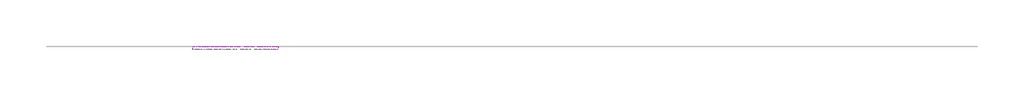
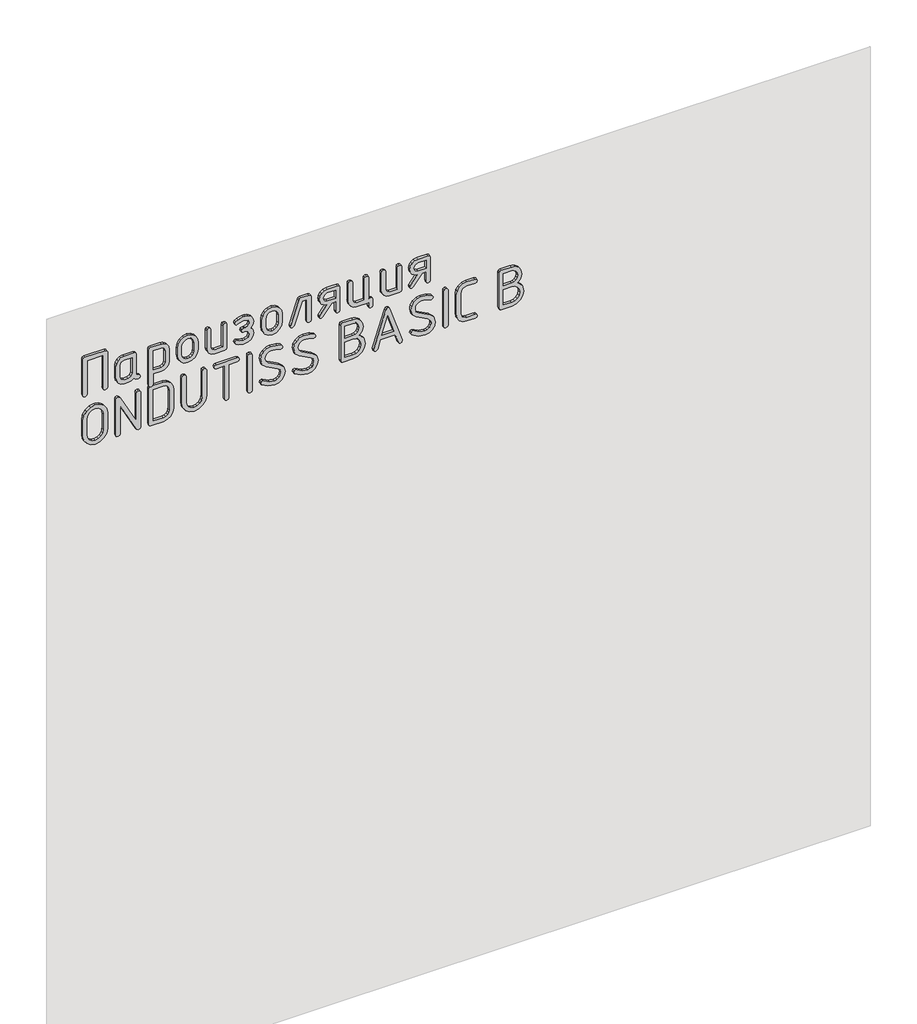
# One storey, part 27 of 42: 1 proxy.
"""IFC4 building model written with IfcOpenShell, lengths in millimetres."""

from ifc_helpers import new_model, si_unit, frame, origin, place, context, project, spatial, polyline, outline, extrude, element, save

model = new_model("IFC4")

# Units and contexts
model_context = context("Model", 3, world=origin())
ifc_project = project(units=[si_unit("LENGTHUNIT", "METRE", prefix="MILLI")], contexts=[model_context])

# Site, building, storey
site = spatial("IfcSite", under=ifc_project)
building = spatial("IfcBuilding", under=site)
storey = spatial("IfcBuildingStorey", under=building, Name="Этаж 01", Elevation=0.0)

# Proxy
placement = place(None, origin())
element("IfcBuildingElementProxy", 1, Name="150 мм GOST Common", ObjectType="150 мм GOST Common", at=placement, inside=storey, context=model_context, shape_type="SweptSolid", body=[
    extrude(outline(polyline([(2813.534126, -17003.1472358), (2811.6464128, -17008.750448), (2805.9832732, -17010.6181854), (2670.2277293, -17010.6181854), (2664.5645897, -17008.7005085), (2662.6768765, -17002.9474778), (2664.5546018, -16997.1944471), (2670.1877777, -16995.2767702), (2798.1927108, -16995.2767702), (2798.1927108, -16936.468012), (2670.1877777, -16936.468012), (2664.5546018, -16934.5503351), (2662.6768765, -16928.7973044), (2664.5645897, -16923.0442737), (2670.2277293, -16921.1265968), (2805.9832732, -16921.1265968), (2811.6464128, -16922.9943342), (2813.534126, -16928.5975464), (2813.534126, -17003.1472358)])), frame((0.0, -21838.3929597, 0.0), z_axis=(0.0, 1.0, 0.0), x_axis=(0.0, 0.0, 1.0)), (0.0, 0.0, 1.0), 10.0),
    extrude(outline(polyline([(2670.1478261, -16801.3117421), (2675.781002, -16803.1844735), (2677.6587273, -16808.8026675), (2679.5264647, -16814.4208616), (2685.1296769, -16816.2935929), (2760.0389308, -16816.2935929), (2765.642143, -16818.1513424), (2767.5098804, -16823.7245909), (2767.5098804, -16860.7996776), (2765.342506, -16872.2957511), (2758.8403827, -16881.8541719), (2749.1820829, -16888.2963678), (2737.5461788, -16890.4437664), (2692.6405781, -16890.4437664), (2681.004674, -16888.2963678), (2671.3463742, -16881.8541719), (2664.8442509, -16872.2957511), (2662.6768765, -16860.7996776), (2662.6768765, -16845.9376817), (2664.6644687, -16834.960979), (2670.6272453, -16825.8420258), (2664.6644687, -16818.2612093), (2662.6768765, -16808.7826917), (2664.5446139, -16803.1794795), (2670.1478261, -16801.3117421)]), holes=[polyline([(2752.1684652, -16831.6350081), (2692.8403361, -16831.6350081), (2682.3530405, -16835.8698779), (2678.0182917, -16846.1374397), (2678.0182917, -16860.5999196), (2682.3929921, -16870.8275298), (2692.8403361, -16875.1023512), (2737.3464208, -16875.1023512), (2747.8337163, -16870.8674814), (2752.1684652, -16860.5999196), (2752.1684652, -16831.6350081)])]), frame((0.0, -21838.3929597, 0.0), z_axis=(0.0, 1.0, 0.0), x_axis=(0.0, 0.0, 1.0)), (0.0, 0.0, 1.0), 10.0),
    extrude(outline(polyline([(2759.9590276, -16770.2693473), (2624.2034837, -16770.2693473), (2618.5403441, -16768.3516704), (2616.6526309, -16762.5986397), (2618.5703078, -16756.845609), (2624.3233385, -16754.9279321), (2662.6768765, -16754.9279321), (2662.6768765, -16725.523553), (2664.8592328, -16714.1323525), (2671.4063016, -16704.6488409), (2681.0795832, -16698.2515906), (2692.6405781, -16696.1191739), (2737.5461788, -16696.1191739), (2749.1820829, -16698.2665725), (2758.8403827, -16704.7087683), (2765.342506, -16714.2671891), (2767.5098804, -16725.7632626), (2767.5098804, -16762.8383493), (2765.6221672, -16768.4115978), (2759.9590276, -16770.2693473)]), holes=[polyline([(2752.1684652, -16754.9279321), (2752.1684652, -16725.9630206), (2747.8936437, -16715.6355315), (2737.3464208, -16711.4605891), (2692.8403361, -16711.4605891), (2682.3530405, -16715.6954589), (2678.0182917, -16725.9630206), (2678.0182917, -16754.9279321), (2752.1684652, -16754.9279321)])]), frame((0.0, -21838.3929597, 0.0), z_axis=(0.0, 1.0, 0.0), x_axis=(0.0, 0.0, 1.0)), (0.0, 0.0, 1.0), 10.0),
    extrude(outline(polyline([(2700.1115277, -16665.4363435), (2685.718963, -16662.7246285), (2673.6236155, -16654.5894835), (2665.4135613, -16642.6089968), (2662.6768765, -16628.3612568), (2665.4135613, -16614.1135167), (2673.6236155, -16602.13303), (2685.718963, -16593.997885), (2700.1115277, -16591.28617), (2730.0752292, -16591.28617), (2744.6176124, -16593.9679213), (2756.6829962, -16602.0131752), (2764.8031593, -16613.9636982), (2767.5098804, -16628.3612568), (2764.7731956, -16642.6089968), (2756.5631414, -16654.5894835), (2744.4677939, -16662.7246285), (2730.0752292, -16665.4363435), (2700.1115277, -16665.4363435)]), holes=[polyline([(2700.5509953, -16606.6275852), (2691.8914855, -16608.2206554), (2684.6103061, -16612.9998658), (2679.6662953, -16620.0263538), (2678.0182917, -16628.3612568), (2679.6563074, -16636.771069), (2684.5703545, -16643.7825752), (2691.841546, -16648.51684), (2700.5509953, -16650.0949283), (2730.5546484, -16650.0949283), (2739.1841945, -16648.5018582), (2746.4553861, -16643.7226478), (2751.3993968, -16636.6961597), (2753.0474004, -16628.3612568), (2751.3993968, -16620.0263538), (2746.4553861, -16612.9998658), (2739.1841945, -16608.2206554), (2730.5546484, -16606.6275852), (2700.5509953, -16606.6275852)])]), frame((0.0, -21838.3929597, 0.0), z_axis=(0.0, 1.0, 0.0), x_axis=(0.0, 0.0, 1.0)), (0.0, 0.0, 1.0), 10.0),
    extrude(outline(polyline([(2760.0389308, -16486.4531662), (2765.642143, -16488.3708431), (2767.5098804, -16494.1238738), (2765.642143, -16499.8769045), (2760.0389308, -16501.7945814), (2678.0182917, -16501.7945814), (2678.0182917, -16530.7594929), (2682.4329437, -16540.987103), (2692.9202393, -16545.2619244), (2760.0389308, -16545.2619244), (2765.642143, -16547.1796013), (2767.5098804, -16552.932632), (2765.642143, -16558.6856627), (2760.0389308, -16560.6033396), (2692.6405781, -16560.6033396), (2681.004674, -16558.455941), (2671.3463742, -16552.0137452), (2664.8442509, -16542.4553244), (2662.6768765, -16530.9592509), (2662.6768765, -16493.8841642), (2664.5446139, -16488.3109157), (2670.1478261, -16486.4531662), (2760.0389308, -16486.4531662)])), frame((0.0, -21838.3929597, 0.0), z_axis=(0.0, 1.0, 0.0), x_axis=(0.0, 0.0, 1.0)), (0.0, 0.0, 1.0), 10.0),
    extrude(outline(polyline([(2693.3996585, -16404.6322851), (2682.5128469, -16409.0069856), (2678.0182917, -16419.6540875), (2678.0182917, -16427.1649887), (2681.8336697, -16442.2067669), (2685.6490477, -16451.335708), (2682.9323388, -16455.450723), (2677.6587273, -16457.1686419), (2671.7059386, -16454.1223322), (2666.6320851, -16444.9834032), (2662.6768765, -16427.1649887), (2662.6768765, -16419.6540875), (2664.8991844, -16407.9682439), (2671.566108, -16398.1601256), (2681.4591234, -16391.5081838), (2693.3597069, -16389.2908699), (2707.1829612, -16391.9376636), (2716.3718297, -16399.8780445), (2725.0113637, -16391.9376636), (2738.3052592, -16389.2908699), (2749.6215505, -16391.5081838), (2759.0401407, -16398.1601256), (2765.3924455, -16407.9682439), (2767.5098804, -16419.6540875), (2767.5098804, -16427.1649887), (2763.434817, -16444.8635484), (2758.2710724, -16454.0923685), (2752.5280296, -16457.1686419), (2747.2743939, -16455.450723), (2744.5377092, -16451.4555628), (2748.3530872, -16442.5463555), (2752.1684652, -16427.1649887), (2752.1684652, -16419.6540875), (2748.1133776, -16408.967034), (2738.1055012, -16404.6322851), (2728.0976249, -16408.6673969), (2724.0425373, -16420.3332647), (2724.0425373, -16422.7303609), (2724.0425373, -16425.0076022), (2721.7852718, -16432.4186244), (2716.3318781, -16434.6359383), (2710.8984602, -16432.4785518), (2708.7011221, -16427.1649887), (2708.7011221, -16417.496701), (2704.7459135, -16408.6274453), (2693.3996585, -16404.6322851)])), frame((0.0, -21838.3929597, 0.0), z_axis=(0.0, 1.0, 0.0), x_axis=(0.0, 0.0, 1.0)), (0.0, 0.0, 1.0), 10.0),
    extrude(outline(polyline([(2700.1115277, -16358.6080395), (2685.718963, -16355.8963245), (2673.6236155, -16347.7611796), (2665.4135613, -16335.7806929), (2662.6768765, -16321.5329528), (2665.4135613, -16307.2852127), (2673.6236155, -16295.304726), (2685.718963, -16287.1695811), (2700.1115277, -16284.4578661), (2730.0752292, -16284.4578661), (2744.6176124, -16287.1396174), (2756.6829962, -16295.1848712), (2764.8031593, -16307.1353942), (2767.5098804, -16321.5329528), (2764.7731956, -16335.7806929), (2756.5631414, -16347.7611796), (2744.4677939, -16355.8963245), (2730.0752292, -16358.6080395), (2700.1115277, -16358.6080395)]), holes=[polyline([(2700.5509953, -16299.7992813), (2691.8914855, -16301.3923514), (2684.6103061, -16306.1715618), (2679.6662953, -16313.1980498), (2678.0182917, -16321.5329528), (2679.6563074, -16329.942765), (2684.5703545, -16336.9542712), (2691.841546, -16341.6885361), (2700.5509953, -16343.2666243), (2730.5546484, -16343.2666243), (2739.1841945, -16341.6735542), (2746.4553861, -16336.8943438), (2751.3993968, -16329.8678558), (2753.0474004, -16321.5329528), (2751.3993968, -16313.1980498), (2746.4553861, -16306.1715618), (2739.1841945, -16301.3923514), (2730.5546484, -16299.7992813), (2700.5509953, -16299.7992813)])]), frame((0.0, -21838.3929597, 0.0), z_axis=(0.0, 1.0, 0.0), x_axis=(0.0, 0.0, 1.0)), (0.0, 0.0, 1.0), 10.0),
    extrude(outline(polyline([(2767.5098804, -16217.4590294), (2765.9817316, -16222.0534636), (2761.3972852, -16224.9699306), (2672.5449222, -16254.6140193), (2670.2676809, -16254.9735837), (2664.5745776, -16253.0958584), (2662.6768765, -16247.4626826), (2667.75073, -16240.391249), (2752.1684652, -16212.1055147), (2752.1684652, -16194.9662774), (2670.1478261, -16194.9662774), (2664.5446139, -16193.0486005), (2662.6768765, -16187.2955698), (2664.5446139, -16181.5425391), (2670.1478261, -16179.6248622), (2760.0389308, -16179.6248622), (2765.642143, -16181.5425391), (2767.5098804, -16187.2955698), (2767.5098804, -16217.4590294)])), frame((0.0, -21838.3929597, 0.0), z_axis=(0.0, 1.0, 0.0), x_axis=(0.0, 0.0, 1.0)), (0.0, 0.0, 1.0), 10.0),
    extrude(outline(polyline([(2707.8221869, -16123.4129581), (2674.7023087, -16148.6623706), (2670.1478261, -16150.1405799), (2664.5446139, -16148.2628546), (2662.6768765, -16142.6296787), (2665.7531499, -16136.5969868), (2707.6623805, -16105.354834), (2707.6623805, -16090.1332736), (2670.1877777, -16090.1332736), (2664.5546018, -16088.2155967), (2662.6768765, -16082.462566), (2664.5446139, -16076.7095353), (2670.1478261, -16074.7918584), (2760.0389308, -16074.7918584), (2765.642143, -16076.7095353), (2767.5098804, -16082.462566), (2767.5098804, -16120.1369267), (2765.342506, -16131.752855), (2758.8403827, -16141.4311306), (2749.1820829, -16147.9632176), (2737.5461788, -16150.1405799), (2726.784216, -16148.2478727), (2717.5903536, -16142.5697513), (2710.9434058, -16133.9951387), (2707.8221869, -16123.4129581)]), holes=[polyline([(2737.1466628, -16135.1187775), (2747.7937647, -16130.7440771), (2752.1684652, -16120.1369267), (2752.1684652, -16090.1332736), (2722.164812, -16090.1332736), (2722.164812, -16120.1369267), (2726.5994398, -16130.6841497), (2737.1466628, -16135.1187775)])]), frame((0.0, -21838.3929597, 0.0), z_axis=(0.0, 1.0, 0.0), x_axis=(0.0, 0.0, 1.0)), (0.0, 0.0, 1.0), 10.0),
    extrude(outline(polyline([(2678.0182917, -15962.2881469), (2678.0182917, -15969.9588545), (2760.0389308, -15969.9588545), (2765.642143, -15971.8765314), (2767.5098804, -15977.6295621), (2765.642143, -15983.3825928), (2760.0389308, -15985.3002697), (2678.0182917, -15985.3002697), (2678.0182917, -16014.2651812), (2682.4329437, -16024.4927914), (2692.9202393, -16028.7676128), (2760.0389308, -16028.7676128), (2765.642143, -16030.6852897), (2767.5098804, -16036.4383204), (2765.642143, -16042.1913511), (2760.0389308, -16044.109028), (2692.6405781, -16044.109028), (2681.0795832, -16041.9616294), (2671.4063016, -16035.5194335), (2664.8592328, -16025.9610127), (2662.6768765, -16014.4649392), (2662.6768765, -15969.9588545), (2647.3354613, -15969.9588545), (2641.5824306, -15968.0411776), (2639.6647537, -15962.2881469), (2641.5824306, -15956.5351162), (2647.3354613, -15954.6174393), (2670.3475841, -15954.6174393), (2676.1006148, -15956.5351162), (2678.0182917, -15962.2881469)])), frame((0.0, -21838.3929597, 0.0), z_axis=(0.0, 1.0, 0.0), x_axis=(0.0, 0.0, 1.0)), (0.0, 0.0, 1.0), 10.0),
    extrude(outline(polyline([(2760.0389308, -15849.7844355), (2765.642143, -15851.7021124), (2767.5098804, -15857.4551431), (2765.642143, -15863.2081738), (2760.0389308, -15865.1258507), (2678.0182917, -15865.1258507), (2678.0182917, -15894.0907622), (2682.4329437, -15904.3183723), (2692.9202393, -15908.5931937), (2760.0389308, -15908.5931937), (2765.642143, -15910.5108706), (2767.5098804, -15916.2639013), (2765.642143, -15922.016932), (2760.0389308, -15923.9346089), (2692.6405781, -15923.9346089), (2681.004674, -15921.7872103), (2671.3463742, -15915.3450145), (2664.8442509, -15905.7865937), (2662.6768765, -15894.2905202), (2662.6768765, -15857.2154335), (2664.5446139, -15851.642185), (2670.1478261, -15849.7844355), (2760.0389308, -15849.7844355)])), frame((0.0, -21838.3929597, 0.0), z_axis=(0.0, 1.0, 0.0), x_axis=(0.0, 0.0, 1.0)), (0.0, 0.0, 1.0), 10.0),
    extrude(outline(polyline([(2707.8221869, -15793.5725314), (2674.7023087, -15818.8219439), (2670.1478261, -15820.3001532), (2664.5446139, -15818.4224279), (2662.6768765, -15812.789252), (2665.7531499, -15806.75656), (2707.6623805, -15775.5144072), (2707.6623805, -15760.2928468), (2670.1877777, -15760.2928468), (2664.5546018, -15758.3751699), (2662.6768765, -15752.6221392), (2664.5446139, -15746.8691085), (2670.1478261, -15744.9514316), (2760.0389308, -15744.9514316), (2765.642143, -15746.8691085), (2767.5098804, -15752.6221392), (2767.5098804, -15790.2965), (2765.342506, -15801.9124283), (2758.8403827, -15811.5907039), (2749.1820829, -15818.1227908), (2737.5461788, -15820.3001532), (2726.784216, -15818.407446), (2717.5903536, -15812.7293246), (2710.9434058, -15804.154712), (2707.8221869, -15793.5725314)]), holes=[polyline([(2737.1466628, -15805.2783508), (2747.7937647, -15800.9036503), (2752.1684652, -15790.2965), (2752.1684652, -15760.2928468), (2722.164812, -15760.2928468), (2722.164812, -15790.2965), (2726.5994398, -15800.8437229), (2737.1466628, -15805.2783508)])]), frame((0.0, -21838.3929597, 0.0), z_axis=(0.0, 1.0, 0.0), x_axis=(0.0, 0.0, 1.0)), (0.0, 0.0, 1.0), 10.0),
    extrude(outline(polyline([(2511.9177961, -16921.1265968), (2572.2447152, -16921.1265968), (2589.6885835, -16924.3876463), (2604.3058759, -16934.1707949), (2614.2088792, -16948.618293), (2617.5098804, -16965.8723911), (2614.1938974, -16983.05158), (2604.2459485, -16997.5140599), (2589.6136742, -17007.3421541), (2572.2447152, -17010.6181854), (2511.9177961, -17010.6181854), (2494.5488371, -17007.3421541), (2479.9165628, -16997.5140599), (2469.9686139, -16983.05158), (2466.6526309, -16965.8723911), (2469.9686139, -16948.6932022), (2479.9165628, -16934.2307223), (2494.5488371, -16924.4026281), (2511.9177961, -16921.1265968)]), holes=[polyline([(2512.0376509, -16936.468012), (2500.3917589, -16938.6004287), (2490.7034954, -16944.997679), (2484.1714084, -16954.4811906), (2481.9940461, -16965.8723911), (2484.1714084, -16977.2635916), (2490.7034954, -16986.7471032), (2500.3917589, -16993.1443535), (2512.0376509, -16995.2767702), (2572.1248604, -16995.2767702), (2583.7707524, -16993.1443535), (2593.4590159, -16986.7471032), (2599.9911029, -16977.2635916), (2602.1684652, -16965.8723911), (2599.9911029, -16954.4811906), (2593.4590159, -16944.997679), (2583.7707524, -16938.6004287), (2572.1248604, -16936.468012), (2512.0376509, -16936.468012)])]), frame((0.0, -21838.3929597, 0.0), z_axis=(0.0, 1.0, 0.0), x_axis=(0.0, 0.0, 1.0)), (0.0, 0.0, 1.0), 10.0),
    extrude(outline(polyline([(2503.3282016, -16816.2935929), (2613.0353009, -16875.1023512), (2617.5098804, -16882.453446), (2615.6221672, -16888.4461863), (2609.9590276, -16890.4437664), (2474.2034837, -16890.4437664), (2468.5403441, -16888.5260895), (2466.6526309, -16882.7730588), (2468.5403441, -16877.0200281), (2474.2034837, -16875.1023512), (2580.9541645, -16875.1023512), (2470.4080815, -16816.2935929), (2466.6526309, -16809.1023046), (2468.5403441, -16802.9897094), (2474.2034837, -16800.9521777), (2609.9590276, -16800.9521777), (2615.6221672, -16802.8698546), (2617.5098804, -16808.6228853), (2615.6221672, -16814.375916), (2609.9590276, -16816.2935929), (2503.3282016, -16816.2935929)])), frame((0.0, -21838.3929597, 0.0), z_axis=(0.0, 1.0, 0.0), x_axis=(0.0, 0.0, 1.0)), (0.0, 0.0, 1.0), 10.0),
    extrude(outline(polyline([(2609.9590276, -16770.2693473), (2474.2034837, -16770.2693473), (2468.5403441, -16768.4016099), (2466.6526309, -16762.7983977), (2466.6526309, -16718.0526034), (2469.4092915, -16703.7299541), (2477.6792731, -16691.684546), (2489.8645117, -16683.5044555), (2504.3669433, -16680.7777587), (2579.795568, -16680.7777587), (2594.4478181, -16683.4744918), (2606.603093, -16691.5646912), (2614.7831835, -16703.5801356), (2617.5098804, -16718.0526034), (2617.5098804, -16762.7983977), (2615.6221672, -16768.4016099), (2609.9590276, -16770.2693473)]), holes=[polyline([(2602.1684652, -16754.9279321), (2602.1684652, -16718.1724582), (2600.5204616, -16709.6977246), (2595.5764508, -16702.5713576), (2588.2952713, -16697.7322198), (2579.6357616, -16696.1191739), (2504.5267497, -16696.1191739), (2495.8672399, -16697.7322198), (2488.5860605, -16702.5713576), (2483.6420497, -16709.6977246), (2481.9940461, -16718.1724582), (2481.9940461, -16754.9279321), (2602.1684652, -16754.9279321)])]), frame((0.0, -21838.3929597, 0.0), z_axis=(0.0, 1.0, 0.0), x_axis=(0.0, 0.0, 1.0)), (0.0, 0.0, 1.0), 10.0),
    extrude(outline(polyline([(2609.9590276, -16560.6033396), (2615.6221672, -16562.5210165), (2617.5098804, -16568.2740472), (2615.6321551, -16574.0270779), (2609.9989792, -16575.9447548), (2512.1175541, -16575.9447548), (2500.4367044, -16578.0771716), (2490.7234712, -16584.4744219), (2484.1764024, -16593.9579334), (2481.9940461, -16605.349134), (2484.1764024, -16616.7403345), (2490.7234712, -16626.223846), (2500.4367044, -16632.6210963), (2512.1175541, -16634.7535131), (2609.9989792, -16634.7535131), (2615.6321551, -16636.67119), (2617.5098804, -16642.4242207), (2615.6221672, -16648.1772514), (2609.9590276, -16650.0949283), (2511.9177961, -16650.0949283), (2494.5488371, -16646.8188969), (2479.9165628, -16636.9908028), (2469.9686139, -16622.5283229), (2466.6526309, -16605.349134), (2469.9686139, -16588.1699451), (2479.9165628, -16573.7074651), (2494.5488371, -16563.879371), (2511.9177961, -16560.6033396), (2609.9590276, -16560.6033396)])), frame((0.0, -21838.3929597, 0.0), z_axis=(0.0, 1.0, 0.0), x_axis=(0.0, 0.0, 1.0)), (0.0, 0.0, 1.0), 10.0),
    extrude(outline(polyline([(2609.8391728, -16531.6384281), (2604.0861421, -16529.7607028), (2602.1684652, -16524.1275269), (2602.1684652, -16494.1238738), (2474.1635321, -16494.1238738), (2468.5303562, -16492.2061969), (2466.6526309, -16486.4531662), (2468.5303562, -16480.7001355), (2474.1635321, -16478.7824586), (2602.1684652, -16478.7824586), (2602.1684652, -16448.7788054), (2604.0861421, -16443.1755932), (2609.8391728, -16441.3078558), (2615.5922035, -16443.1755932), (2617.5098804, -16448.7788054), (2617.5098804, -16524.1275269), (2615.5922035, -16529.7607028), (2609.8391728, -16531.6384281)])), frame((0.0, -21838.3929597, 0.0), z_axis=(0.0, 1.0, 0.0), x_axis=(0.0, 0.0, 1.0)), (0.0, 0.0, 1.0), 10.0),
    extrude(outline(polyline([(2466.6526309, -16402.0753826), (2468.5403441, -16396.3223519), (2474.2034837, -16394.404675), (2609.9590276, -16394.404675), (2615.6221672, -16396.3223519), (2617.5098804, -16402.0753826), (2615.6221672, -16407.8284133), (2609.9590276, -16409.7460902), (2474.2034837, -16409.7460902), (2468.5403441, -16407.8284133), (2466.6526309, -16402.0753826)])), frame((0.0, -21838.3929597, 0.0), z_axis=(0.0, 1.0, 0.0), x_axis=(0.0, 0.0, 1.0)), (0.0, 0.0, 1.0), 10.0),
    extrude(outline(polyline([(2504.2870401, -16274.2302559), (2524.1429863, -16279.3140973), (2537.8463858, -16294.5656214), (2559.5001542, -16336.2351424), (2567.6602689, -16345.3441076), (2579.59581, -16348.3804294), (2588.2603137, -16346.7673835), (2595.556475, -16341.9282457), (2600.5154676, -16334.8018786), (2602.1684652, -16326.3271451), (2600.4904979, -16309.567448), (2595.456596, -16292.6878961), (2594.657564, -16289.5716711), (2596.8748779, -16284.2780839), (2602.1684652, -16282.06077), (2609.1599955, -16286.4953978), (2615.4224092, -16303.4648408), (2617.5098804, -16326.6467579), (2614.7432319, -16340.8195887), (2606.4432866, -16352.8150572), (2594.2680359, -16360.9951478), (2579.8754712, -16363.7218446), (2560.0494887, -16358.6979306), (2546.4359803, -16343.6261888), (2524.7822119, -16301.9167162), (2516.5322061, -16292.6579324), (2504.5667013, -16289.5716711), (2495.9021976, -16291.1996989), (2488.6060363, -16296.0837823), (2483.6470437, -16303.2750707), (2481.9940461, -16311.8247135), (2485.1901743, -16331.6007565), (2495.657494, -16352.0559768), (2497.0158485, -16356.2908466), (2494.7985346, -16361.5245065), (2489.5049473, -16363.7218446), (2483.3923522, -16360.4458132), (2470.8375612, -16337.5235815), (2466.6526309, -16311.5051007), (2469.4192794, -16297.2573606), (2477.7192247, -16285.1969707), (2489.8944754, -16276.9719346), (2504.2870401, -16274.2302559)])), frame((0.0, -21838.3929597, 0.0), z_axis=(0.0, 1.0, 0.0), x_axis=(0.0, 0.0, 1.0)), (0.0, 0.0, 1.0), 10.0),
    extrude(outline(polyline([(2504.2870401, -16154.0558369), (2524.1429863, -16159.1396783), (2537.8463858, -16174.3912024), (2559.5001542, -16216.0607233), (2567.6602689, -16225.1696886), (2579.59581, -16228.2060104), (2588.2603137, -16226.5929644), (2595.556475, -16221.7538266), (2600.5154676, -16214.6274596), (2602.1684652, -16206.152726), (2600.4904979, -16189.3930289), (2595.456596, -16172.5134771), (2594.657564, -16169.3972521), (2596.8748779, -16164.1036648), (2602.1684652, -16161.8863509), (2609.1599955, -16166.3209787), (2615.4224092, -16183.2904217), (2617.5098804, -16206.4723388), (2614.7432319, -16220.6451697), (2606.4432866, -16232.6406382), (2594.2680359, -16240.8207287), (2579.8754712, -16243.5474256), (2560.0494887, -16238.5235116), (2546.4359803, -16223.4517697), (2524.7822119, -16181.7422971), (2516.5322061, -16172.4835134), (2504.5667013, -16169.3972521), (2495.9021976, -16171.0252799), (2488.6060363, -16175.9093632), (2483.6470437, -16183.1006516), (2481.9940461, -16191.6502945), (2485.1901743, -16211.4263375), (2495.657494, -16231.8815577), (2497.0158485, -16236.1164276), (2494.7985346, -16241.3500874), (2489.5049473, -16243.5474256), (2483.3923522, -16240.2713942), (2470.8375612, -16217.3491625), (2466.6526309, -16191.3306816), (2469.4192794, -16177.0829415), (2477.7192247, -16165.0225517), (2489.8944754, -16156.7975156), (2504.2870401, -16154.0558369)])), frame((0.0, -21838.3929597, 0.0), z_axis=(0.0, 1.0, 0.0), x_axis=(0.0, 0.0, 1.0)), (0.0, 0.0, 1.0), 10.0),
    extrude(outline(polyline([(2549.272544, -16004.5968935), (2562.4965243, -15993.9597795), (2579.1563424, -15990.4140748), (2594.0383141, -15993.105814), (2606.403335, -16001.1810316), (2614.733244, -16013.1715061), (2617.5098804, -16027.6090163), (2617.5098804, -16064.8039579), (2615.6221672, -16070.3772064), (2609.9590276, -16072.2349558), (2474.2034837, -16072.2349558), (2468.5403441, -16070.3672185), (2466.6526309, -16064.7640063), (2466.6526309, -16027.4891615), (2469.9236683, -16010.3099726), (2479.7367806, -15995.8474927), (2494.1643029, -15986.0193986), (2511.2785704, -15982.7433672), (2533.4616975, -15988.2067488), (2549.272544, -16004.5968935)]), holes=[polyline([(2540.8028044, -16056.8935406), (2540.8028044, -16027.4891615), (2538.6703876, -16016.097961), (2532.2731373, -16006.6144494), (2522.7896258, -16000.2171992), (2511.3984253, -15998.0847824), (2500.0072247, -16000.2171992), (2490.5237132, -16006.6144494), (2484.1264629, -16016.097961), (2481.9940461, -16027.4891615), (2481.9940461, -16056.8935406), (2540.8028044, -16056.8935406)]), polyline([(2602.1684652, -16056.8935406), (2602.1684652, -16027.6889195), (2600.4855039, -16019.2541375), (2595.4366202, -16012.1677221), (2588.0006283, -16007.358548), (2579.1563424, -16005.75549), (2570.3120565, -16007.358548), (2562.8760645, -16012.1677221), (2557.8271808, -16019.2541375), (2556.1442196, -16027.6889195), (2556.1442196, -16056.8935406), (2602.1684652, -16056.8935406)])]), frame((0.0, -21838.3929597, 0.0), z_axis=(0.0, 1.0, 0.0), x_axis=(0.0, 0.0, 1.0)), (0.0, 0.0, 1.0), 10.0),
    extrude(outline(polyline([(2474.2034837, -15847.3873394), (2476.6005798, -15847.7469038), (2611.6769465, -15892.5326497), (2616.0516469, -15895.3292619), (2617.5098804, -15899.8837445), (2615.9917195, -15904.4981545), (2611.4372369, -15907.3946457), (2476.6005798, -15952.0605368), (2474.2034837, -15952.4201012), (2468.5403441, -15950.5423759), (2466.6526309, -15944.9092), (2467.9610459, -15940.3846811), (2471.8862908, -15937.7578633), (2505.0061689, -15926.9309791), (2505.0061689, -15872.8365099), (2471.8862908, -15862.0495773), (2467.9610459, -15859.4227595), (2466.6526309, -15854.8982405), (2468.5403441, -15849.2650647), (2474.2034837, -15847.3873394)]), holes=[polyline([(2586.5074372, -15899.8837445), (2520.3475841, -15877.8704117), (2520.3475841, -15921.9370288), (2586.5074372, -15899.8837445)])]), frame((0.0, -21838.3929597, 0.0), z_axis=(0.0, 1.0, 0.0), x_axis=(0.0, 0.0, 1.0)), (0.0, 0.0, 1.0), 10.0),
    extrude(outline(polyline([(2504.2870401, -15727.0531139), (2524.1429863, -15732.1369553), (2537.8463858, -15747.3884794), (2559.5001542, -15789.0580003), (2567.6602689, -15798.1669656), (2579.59581, -15801.2032874), (2588.2603137, -15799.5902414), (2595.556475, -15794.7511036), (2600.5154676, -15787.6247366), (2602.1684652, -15779.150003), (2600.4904979, -15762.3903059), (2595.456596, -15745.5107541), (2594.657564, -15742.3945291), (2596.8748779, -15737.1009418), (2602.1684652, -15734.8836279), (2609.1599955, -15739.3182557), (2615.4224092, -15756.2876987), (2617.5098804, -15779.4696158), (2614.7432319, -15793.6424467), (2606.4432866, -15805.6379152), (2594.2680359, -15813.8180057), (2579.8754712, -15816.5447026), (2560.0494887, -15811.5207886), (2546.4359803, -15796.4490467), (2524.7822119, -15754.7395741), (2516.5322061, -15745.4807904), (2504.5667013, -15742.3945291), (2495.9021976, -15744.0225569), (2488.6060363, -15748.9066402), (2483.6470437, -15756.0979286), (2481.9940461, -15764.6475715), (2485.1901743, -15784.4236145), (2495.657494, -15804.8788347), (2497.0158485, -15809.1137046), (2494.7985346, -15814.3473644), (2489.5049473, -15816.5447026), (2483.3923522, -15813.2686712), (2470.8375612, -15790.3464395), (2466.6526309, -15764.3279586), (2469.4192794, -15750.0802186), (2477.7192247, -15738.0198287), (2489.8944754, -15729.7947926), (2504.2870401, -15727.0531139)])), frame((0.0, -21838.3929597, 0.0), z_axis=(0.0, 1.0, 0.0), x_axis=(0.0, 0.0, 1.0)), (0.0, 0.0, 1.0), 10.0),
    extrude(outline(polyline([(2466.6526309, -15688.6995759), (2468.5403441, -15682.9465452), (2474.2034837, -15681.0288683), (2609.9590276, -15681.0288683), (2615.6221672, -15682.9465452), (2617.5098804, -15688.6995759), (2615.6221672, -15694.4526066), (2609.9590276, -15696.3702835), (2474.2034837, -15696.3702835), (2468.5403441, -15694.4526066), (2466.6526309, -15688.6995759)])), frame((0.0, -21838.3929597, 0.0), z_axis=(0.0, 1.0, 0.0), x_axis=(0.0, 0.0, 1.0)), (0.0, 0.0, 1.0), 10.0),
    extrude(outline(polyline([(2617.5098804, -15582.5082176), (2617.5098804, -15612.5118707), (2614.7532198, -15626.9793447), (2606.4832382, -15639.2195167), (2594.2979996, -15647.5644076), (2579.795568, -15650.3460379), (2504.3669433, -15650.3460379), (2489.8645117, -15647.5644076), (2477.6792731, -15639.2195167), (2469.4092915, -15626.9793447), (2466.6526309, -15612.5118707), (2466.6526309, -15582.5082176), (2468.5703078, -15576.8750417), (2474.3233385, -15574.9973164), (2480.0763692, -15576.8750417), (2481.9940461, -15582.5082176), (2481.9940461, -15612.5118707), (2483.6420497, -15621.1414168), (2488.5860605, -15628.4126084), (2495.8672399, -15633.3566191), (2504.5267497, -15635.0046227), (2579.6357616, -15635.0046227), (2588.2952713, -15633.371601), (2595.5764508, -15628.4725358), (2600.5204616, -15621.2163261), (2602.1684652, -15612.5118707), (2602.1684652, -15582.5082176), (2604.0861421, -15576.8750417), (2609.8391728, -15574.9973164), (2615.5922035, -15576.8750417), (2617.5098804, -15582.5082176)])), frame((0.0, -21838.3929597, 0.0), z_axis=(0.0, 1.0, 0.0), x_axis=(0.0, 0.0, 1.0)), (0.0, 0.0, 1.0), 10.0),
    extrude(outline(polyline([(2549.272544, -15426.7369211), (2562.4965243, -15416.099807), (2579.1563424, -15412.5541024), (2594.0383141, -15415.2458415), (2606.403335, -15423.3210591), (2614.733244, -15435.3115337), (2617.5098804, -15449.7490439), (2617.5098804, -15486.9439854), (2615.6221672, -15492.5172339), (2609.9590276, -15494.3749834), (2474.2034837, -15494.3749834), (2468.5403441, -15492.507246), (2466.6526309, -15486.9040338), (2466.6526309, -15449.6291891), (2469.9236683, -15432.4500002), (2479.7367806, -15417.9875202), (2494.1643029, -15408.1594261), (2511.2785704, -15404.8833948), (2533.4616975, -15410.3467763), (2549.272544, -15426.7369211)]), holes=[polyline([(2602.1684652, -15479.0335682), (2602.1684652, -15449.8289471), (2600.4855039, -15441.3941651), (2595.4366202, -15434.3077497), (2588.0006283, -15429.4985756), (2579.1563424, -15427.8955176), (2570.3120565, -15429.4985756), (2562.8760645, -15434.3077497), (2557.8271808, -15441.3941651), (2556.1442196, -15449.8289471), (2556.1442196, -15479.0335682), (2602.1684652, -15479.0335682)]), polyline([(2540.8028044, -15479.0335682), (2540.8028044, -15449.6291891), (2538.6703876, -15438.2379885), (2532.2731373, -15428.754477), (2522.7896258, -15422.3572267), (2511.3984253, -15420.22481), (2500.0072247, -15422.3572267), (2490.5237132, -15428.754477), (2484.1264629, -15438.2379885), (2481.9940461, -15449.6291891), (2481.9940461, -15479.0335682), (2540.8028044, -15479.0335682)])]), frame((0.0, -21838.3929597, 0.0), z_axis=(0.0, 1.0, 0.0), x_axis=(0.0, 0.0, 1.0)), (0.0, 0.0, 1.0), 10.0),
])

save(model, "model.ifc")
